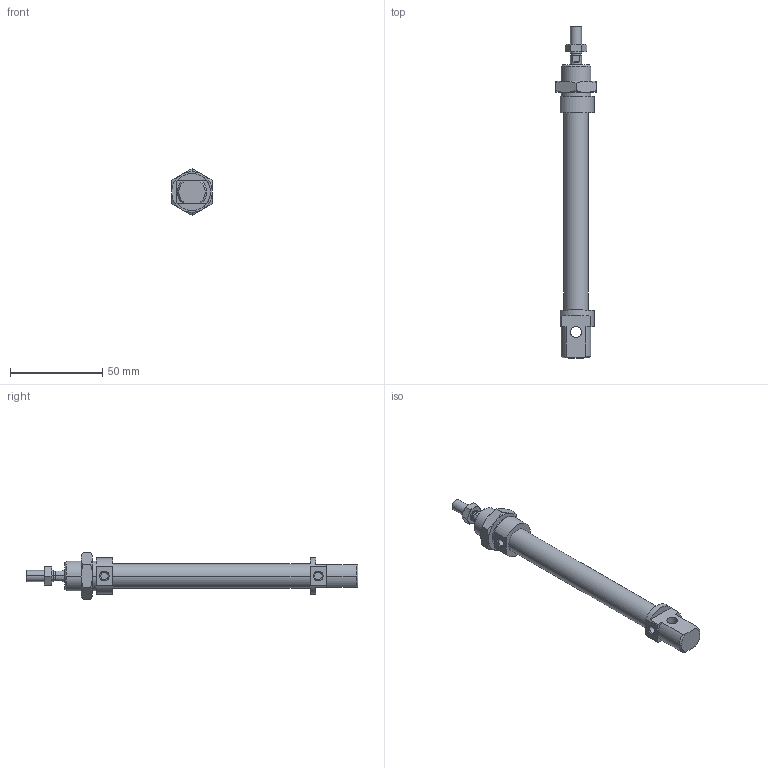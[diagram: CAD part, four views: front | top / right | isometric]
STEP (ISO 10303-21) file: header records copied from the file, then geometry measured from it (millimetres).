
FILE_DESCRIPTION((''),'2;1');
FILE_NAME('I:\DOC-EDP\Lib-3d\1200\CILINDRI\1280\1280_12_0075.stp','2003-04-07T14:49:14',('maffial1'),(''),'Autodesk Inventor (R) 6.0','Autodesk Inventor (R) 6.0','');
FILE_SCHEMA(('AUTOMOTIVE_DESIGN { 1 0 10303 214 1 1 1 1 }'));
Length unit declared in the file: millimetre
Products named in the file (5): 1280_12_0075; S1280_12_75; 1200_12_05; 1200_12_06; C1280_12_75
Assembly tree (4 placements, depth 2):
  1280_12_0075
    S1280_12_75
    1200_12_05
    1200_12_06
    C1280_12_75
Bounding box: 22 x 180 x 25.4 mm (x, y, z)
Volume: 27694.9 mm3; surface area: 14142.9 mm2
Topology: 4 solids, 4 shells, 121 faces, 268 edges, 162 vertices
Faces by surface type: cone 40, plane 39, cylinder 22, bspline 20
Entity records: 3653 total; most frequent: CARTESIAN_POINT 976, DIRECTION 556, ORIENTED_EDGE 536, EDGE_CURVE 268, AXIS2_PLACEMENT_3D 230, VERTEX_POINT 162, EDGE_LOOP 134, FACE_OUTER_BOUND 121
